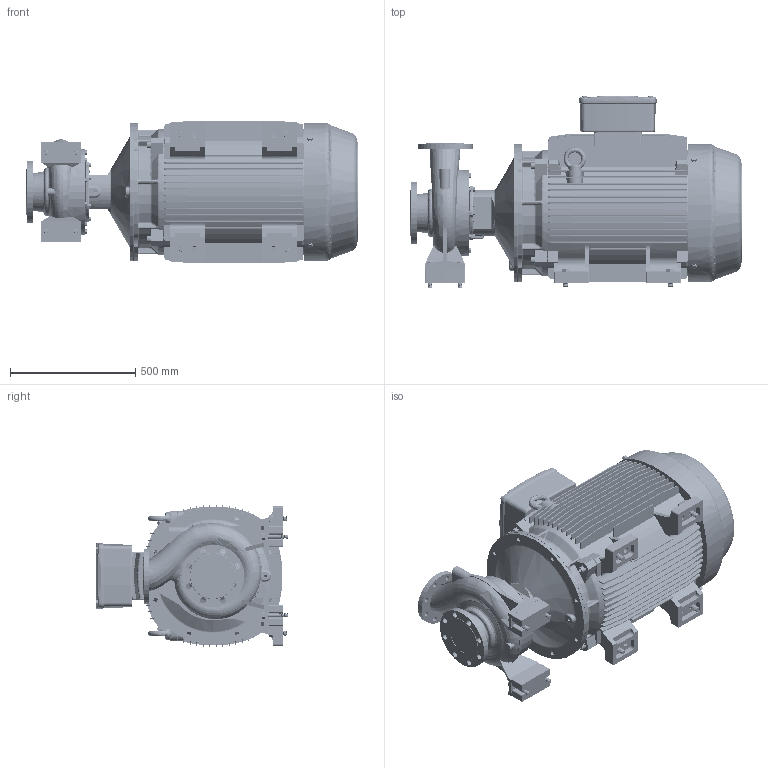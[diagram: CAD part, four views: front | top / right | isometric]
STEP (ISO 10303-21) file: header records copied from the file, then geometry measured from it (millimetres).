
FILE_DESCRIPTION (( 'STEP AP214' ), '1' );
FILE_NAME ('GSD2 100-250_90 & 110_(280SM)_W21.STEP', '2026-07-07T04:51:35', ( '' ), ( '' ), 'SwSTEP 2.0', 'SolidWorks 2024', '' );
FILE_SCHEMA (( 'AUTOMOTIVE_DESIGN' ));
Length unit declared in the file: millimetre
Products named in the file (9): Parametric Flat Washer_M16; Parametric bolt_SFT-A411B; 100-250-280S_M_ﾃﾞﾌｫﾙﾄ; 280S_M2P IE3_W21T_B35; CGS11-5321_2_3_4_5_CGS11-5322; GSD2  100-250_90 & 110_(280SM)_W21; CGS11-5321_2_3_4_5_CGS11-5324; Parametric bolt_SFT-A377B; Parametric Flat Washer_M20
Assembly tree (22 placements, depth 2):
  GSD2  100-250_90 & 110_(280SM)_W21
    100-250-280S_M_ﾃﾞﾌｫﾙﾄ
    280S_M2P IE3_W21T_B35
    CGS11-5321_2_3_4_5_CGS11-5322  x2
    CGS11-5321_2_3_4_5_CGS11-5324  x2
    Parametric bolt_SFT-A377B  x4
    Parametric bolt_SFT-A411B  x4
    Parametric Flat Washer_M20  x4
    Parametric Flat Washer_M16  x4
Bounding box: 1328 x 770.6 x 569.62 mm (x, y, z)
Volume: 230708876 mm3; surface area: 6273190.2 mm2
Topology: 23 solids, 30 shells, 3984 faces, 10520 edges, 6716 vertices
Faces by surface type: plane 1614, cylinder 1317, cone 511, bspline 268, torus 244, sphere 30
Entity records: 162939 total; most frequent: CARTESIAN_POINT 79278, ORIENTED_EDGE 18230, DIRECTION 16773, EDGE_CURVE 9115, AXIS2_PLACEMENT_3D 6200, VERTEX_POINT 5813, VECTOR 4373, LINE 4373
